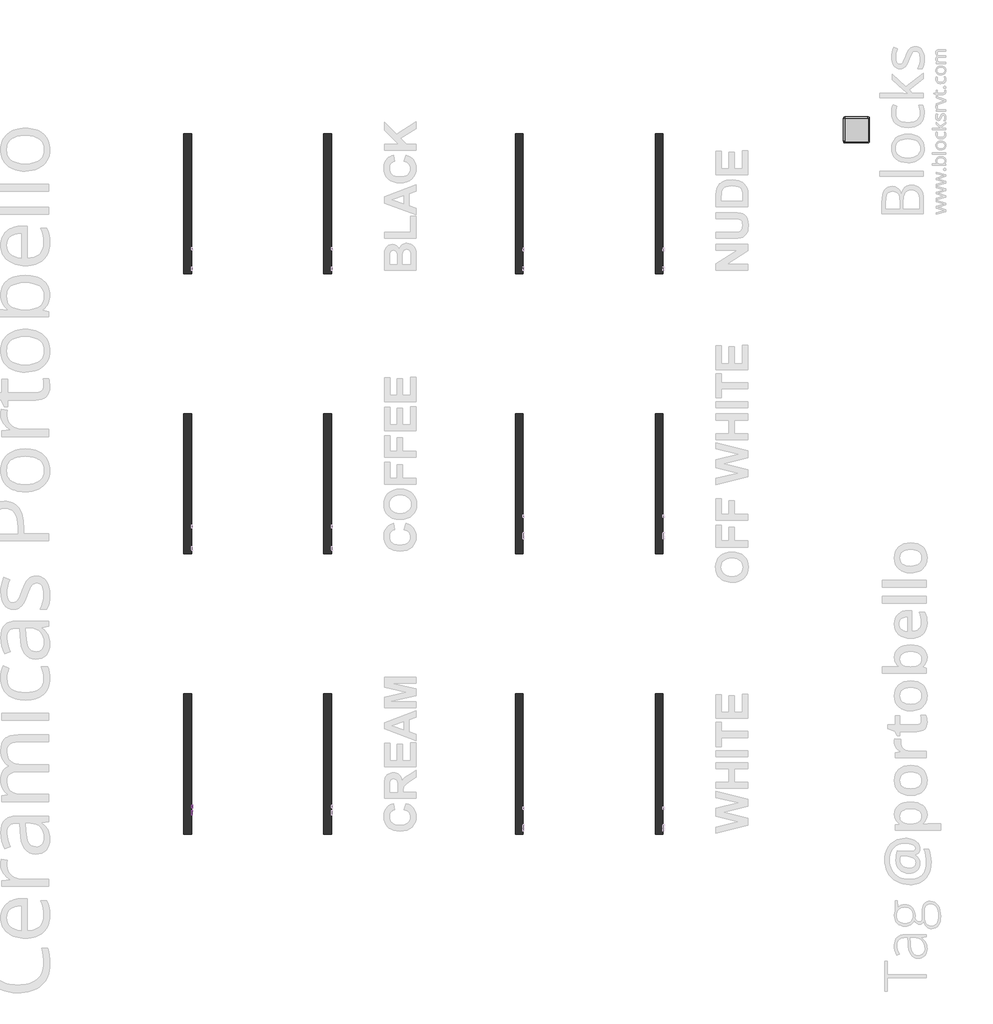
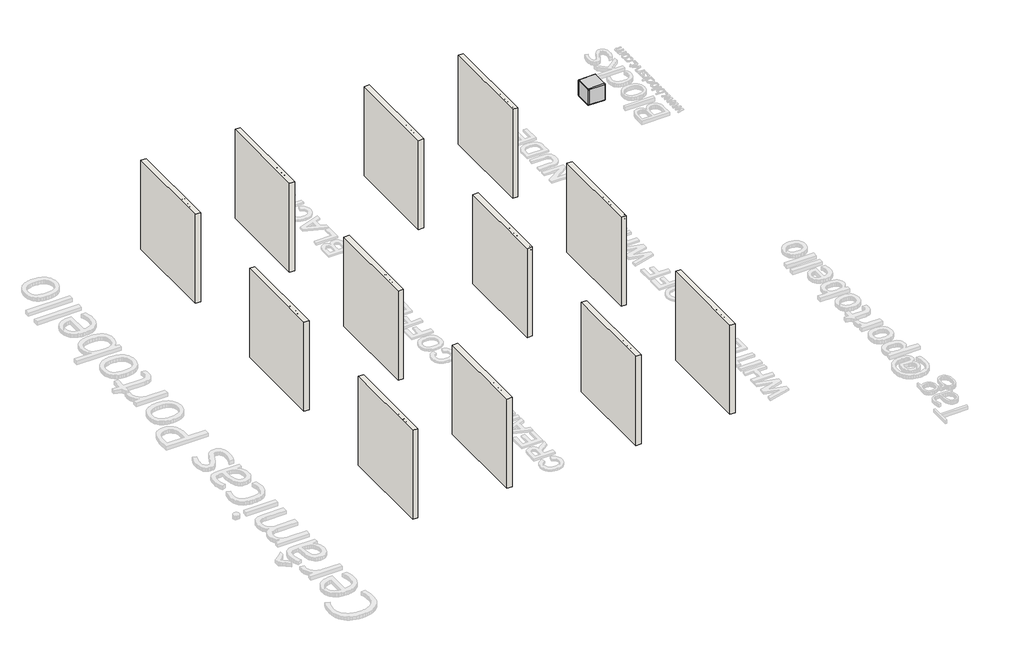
# One storey, part 1 of 8: 12 walls, 2 proxies, 1 furniture element.
"""IFC4 building model written with IfcOpenShell, lengths in millimetres."""

import ifcopenshell
import ifcopenshell.guid

model = None  # the IFC model being written
_history = None  # IfcOwnerHistory: only IFC2X3 demands one
_inside = {}  # id of a spatial element -> (the spatial element, [elements in it])
_under = {}  # id of a project, library or spatial element -> (it, [spatial elements below it])
_declared = {}  # id of a project -> (the project, [libraries it declares])
_typed = {}  # id of a type object -> (the type object, [elements of that type])
_made_of = {}  # id of a material, layer set ... -> (it, [elements and type objects made of it])


def new_model(schema):
    """Start an empty IFC model of exactly this schema.

    Asked for "IFC4X3", IfcOpenShell would pick the latest addendum, in which some entities
    have other attributes; the version numbers below select the first issue.
    IFC2X3 requires an IfcOwnerHistory on every rooted entity: one is made here for all.
    """
    global model, _history
    if schema == "IFC4X3":
        model = ifcopenshell.file(schema_version=(4, 3, 0, 0))
    else:
        model = ifcopenshell.file(schema=schema)
    _inside.clear()
    _under.clear()
    _declared.clear()
    _typed.clear()
    _made_of.clear()
    _history = None
    if model.schema == "IFC2X3":
        org = make("IfcOrganization", Name="unknown")
        user = make(
            "IfcPersonAndOrganization",
            ThePerson=make("IfcPerson", FamilyName="unknown"),
            TheOrganization=org,
        )
        app = make(
            "IfcApplication",
            ApplicationDeveloper=org,
            Version="unknown",
            ApplicationFullName="unknown",
            ApplicationIdentifier="unknown",
        )
        _history = make(
            "IfcOwnerHistory",
            OwningUser=user,
            OwningApplication=app,
            ChangeAction="ADDED",
            CreationDate=0,
        )
    return model


def make(cls, **values):
    """One entity of the class cls with the attributes given. An attribute that is None is left unset."""
    return model.create_entity(
        cls, **{name: value for name, value in values.items() if value is not None}
    )


def rooted(cls, **values):
    """An entity with a GlobalId (a new one), such as an element, a storey or a relation."""
    return make(cls, GlobalId=ifcopenshell.guid.new(), OwnerHistory=_history, **values)


def si_unit(unit_type, name, prefix=None):
    """IfcSIUnit, for example si_unit("LENGTHUNIT", "METRE", prefix="MILLI")."""
    return make("IfcSIUnit", UnitType=unit_type, Prefix=prefix, Name=name)


def assignment(units):
    """IfcUnitAssignment: the units of a project."""
    return None if units is None else make("IfcUnitAssignment", Units=units)


def point(xyz):
    """IfcCartesianPoint."""
    return None if xyz is None else make("IfcCartesianPoint", Coordinates=xyz)


def direction(xyz):
    """IfcDirection."""
    return None if xyz is None else make("IfcDirection", DirectionRatios=xyz)


def frame(location, z_axis=None, x_axis=None):
    """IfcAxis2Placement3D, a coordinate frame: its origin and axes. An axis left out is left unset."""
    return make(
        "IfcAxis2Placement3D",
        Location=point(location),
        Axis=direction(z_axis),
        RefDirection=direction(x_axis),
    )


def origin():
    """The frame at (0, 0, 0) with its axes left unset."""
    return frame((0.0, 0.0, 0.0))


def origin_with_axes():
    """The frame at (0, 0, 0) with the z axis (0, 0, 1) and the x axis (1, 0, 0) written out."""
    return frame((0.0, 0.0, 0.0), z_axis=(0.0, 0.0, 1.0), x_axis=(1.0, 0.0, 0.0))


def place(relative_to, where):
    """IfcLocalPlacement: puts the frame where relative to a parent placement (None: the world)."""
    return make(
        "IfcLocalPlacement", PlacementRelTo=relative_to, RelativePlacement=where
    )


def context(
    kind, dimensions, precision=None, world=None, true_north=None, identifier=None
):
    """IfcGeometricRepresentationContext, for example the 3D "Model" context."""
    return make(
        "IfcGeometricRepresentationContext",
        ContextIdentifier=identifier,
        ContextType=kind,
        CoordinateSpaceDimension=dimensions,
        Precision=precision,
        WorldCoordinateSystem=world,
        TrueNorth=true_north,
    )


def project(units=None, contexts=None):
    """IfcProject with its units and contexts."""
    return rooted(
        "IfcProject",
        Name="project",
        RepresentationContexts=contexts,
        UnitsInContext=assignment(units),
    )


def spatial(cls, under=None, at=None, **own):
    """A site, building, storey or space (cls), placed at a placement, below another one or the project."""
    s = rooted(cls, ObjectPlacement=at, **own)
    if under is not None:
        _under.setdefault(under.id(), (under, []))[1].append(s)
    return s


def polyline(points):
    """IfcPolyline through the points."""
    return make("IfcPolyline", Points=[point(p) for p in points])


def circle_curve(where, radius):
    """IfcCircle in the frame where."""
    return make("IfcCircle", Position=where, Radius=radius)


def ellipse_curve(where, semi_axis1, semi_axis2):
    """IfcEllipse in the frame where."""
    return make(
        "IfcEllipse", Position=where, SemiAxis1=semi_axis1, SemiAxis2=semi_axis2
    )


def trimmed(basis, trim1, trim2, sense, master):
    """IfcTrimmedCurve: the piece of a basis curve between two trims."""
    return make(
        "IfcTrimmedCurve",
        BasisCurve=basis,
        Trim1=trim1,
        Trim2=trim2,
        SenseAgreement=sense,
        MasterRepresentation=master,
    )


def outline(outer, holes=None, kind="AREA"):
    """IfcArbitraryClosedProfileDef: a profile drawn as a closed curve; with holes, ...WithVoids."""
    if holes is None:
        return make("IfcArbitraryClosedProfileDef", ProfileType=kind, OuterCurve=outer)
    return make(
        "IfcArbitraryProfileDefWithVoids",
        ProfileType=kind,
        OuterCurve=outer,
        InnerCurves=holes,
    )


def extrude(swept, where, along, depth):
    """IfcExtrudedAreaSolid: the profile swept, set in the frame where, extruded along a direction by depth."""
    return make(
        "IfcExtrudedAreaSolid",
        SweptArea=swept,
        Position=where,
        ExtrudedDirection=direction(along),
        Depth=depth,
    )


def shape(context_of_items, identifier, shape_type, items):
    """IfcShapeRepresentation: the items that make up one representation, for example the "Body"."""
    return make(
        "IfcShapeRepresentation",
        ContextOfItems=context_of_items,
        RepresentationIdentifier=identifier,
        RepresentationType=shape_type,
        Items=items,
    )


def source(mapping_origin, context_of_items, identifier, shape_type, items):
    """IfcRepresentationMap: a shape defined once, which mapped items show again and again."""
    return make(
        "IfcRepresentationMap",
        MappingOrigin=mapping_origin,
        MappedRepresentation=shape(context_of_items, identifier, shape_type, items),
    )


def transform(
    local_origin,
    x_axis=None,
    y_axis=None,
    z_axis=None,
    scale=None,
    scale2=None,
    scale3=None,
    uniform=True,
):
    """IfcCartesianTransformationOperator3D, or its non-uniform kind. x_axis, y_axis, z_axis: its Axis1, 2, 3."""
    if uniform:
        return make(
            "IfcCartesianTransformationOperator3D",
            Axis1=direction(x_axis),
            Axis2=direction(y_axis),
            LocalOrigin=point(local_origin),
            Scale=scale,
            Axis3=direction(z_axis),
        )
    return make(
        "IfcCartesianTransformationOperator3DnonUniform",
        Axis1=direction(x_axis),
        Axis2=direction(y_axis),
        LocalOrigin=point(local_origin),
        Scale=scale,
        Axis3=direction(z_axis),
        Scale2=scale2,
        Scale3=scale3,
    )


def mapped(mapping_source, mapping_target):
    """IfcMappedItem: shows the shape of a source again, moved by a transform."""
    return make(
        "IfcMappedItem", MappingSource=mapping_source, MappingTarget=mapping_target
    )


def made_of(thing, what):
    """Note that an element or type object is made of a material, layer set ...; save() writes the relation."""
    if what is not None:
        _made_of.setdefault(what.id(), (what, []))[1].append(thing)
    return thing


def element(
    cls,
    number,
    at=None,
    inside=None,
    cuts=None,
    type_object=None,
    material=None,
    context=None,
    identifier="Body",
    shape_type=None,
    held_by="IfcProductDefinitionShape",
    body=None,
    shapes=None,
    **own,
):
    """One element of the class cls, such as IfcWall. Its Tag is "e" and its number.

    at: its placement. inside: the storey or other place that contains it. cuts: it is an
    opening in that element (IfcRelVoidsElement). A single representation is given by context,
    identifier, shape_type and body (its items); several are given by shapes. held_by: the class
    of the entity that holds the representations. save() writes the other relations.
    """
    e = rooted(cls, Tag="e%d" % number, ObjectPlacement=at, **own)
    if body is not None:
        shapes = [shape(context, identifier, shape_type, body)]
    if shapes is not None:
        e.Representation = make(held_by, Representations=shapes)
    if inside is not None:
        _inside.setdefault(inside.id(), (inside, []))[1].append(e)
    if cuts is not None:
        rooted(
            "IfcRelVoidsElement", RelatingBuildingElement=cuts, RelatedOpeningElement=e
        )
    if type_object is not None:
        _typed.setdefault(type_object.id(), (type_object, []))[1].append(e)
    return made_of(e, material)


def aggregate(whole, parts):
    """IfcRelAggregates: a whole, such as a stair, and the parts it consists of."""
    return rooted("IfcRelAggregates", RelatingObject=whole, RelatedObjects=parts)


def save(model, path):
    """Write the relations noted so far, then the file.

    IfcRelAggregates (storeys below a building ...), IfcRelContainedInSpatialStructure (elements
    in a storey), IfcRelDefinesByType, IfcRelAssociatesMaterial and IfcRelDeclares: one each for
    every whole, place, type object, material and project.
    """
    for whole, parts in _under.values():
        aggregate(whole, parts)
    for where, things in _inside.values():
        rooted(
            "IfcRelContainedInSpatialStructure",
            RelatedElements=things,
            RelatingStructure=where,
        )
    for kind, things in _typed.values():
        rooted("IfcRelDefinesByType", RelatedObjects=things, RelatingType=kind)
    for what, things in _made_of.values():
        rooted("IfcRelAssociatesMaterial", RelatedObjects=things, RelatingMaterial=what)
    for by, libraries in _declared.values():
        rooted("IfcRelDeclares", RelatingContext=by, RelatedDefinitions=libraries)
    model.write(path)


def plane_surface(at):
    """IfcPlane: the flat surface through the origin of the frame at, square to its z axis."""
    return make("IfcPlane", Position=at)


def cylinder_surface(at, radius):
    """IfcCylindricalSurface: all points at the distance radius from the z axis of the frame at."""
    return make("IfcCylindricalSurface", Position=at, Radius=radius)


def revolved_surface(curve, axis_point, axis_direction):
    """IfcSurfaceOfRevolution: the curve turned about the line through axis_point along axis_direction."""
    return make(
        "IfcSurfaceOfRevolution",
        SweptCurve=make("IfcArbitraryOpenProfileDef", ProfileType="CURVE", Curve=curve),
        AxisPosition=make("IfcAxis1Placement", Location=point(axis_point), Axis=direction(axis_direction)),
    )


def advanced_brep(points, edges, surfaces, faces):
    """IfcAdvancedBrep: a solid bounded by faces that lie on surfaces and meet in shared edges.

    An edge is (start, end): straight between two places in points (the first is 0);
    or (start, end, curve); or (start, end, curve, False) where it runs against its curve.
    A face is (place in surfaces, loops), or (place, loops, False) where it looks against
    its surface's normal. A loop lists edges by number (the first is 1), with a minus sign
    where the edge is run from its end to its start. The first loop is the outer one.
    """
    corners = [point(p) for p in points]
    vertices = [make("IfcVertexPoint", VertexGeometry=c) for c in corners]
    made = []
    for start, end, *more in edges:
        made.append(
            make(
                "IfcEdgeCurve",
                EdgeStart=vertices[start],
                EdgeEnd=vertices[end],
                EdgeGeometry=more[0] if more else make("IfcPolyline", Points=[corners[start], corners[end]]),
                SameSense=more[1] if len(more) > 1 else True,
            )
        )
    hull = []
    for where, loops, *sense in faces:
        bounds = []
        for j, loop in enumerate(loops):
            ring = [make("IfcOrientedEdge", EdgeElement=made[abs(k) - 1], Orientation=k > 0) for k in loop]
            bounds.append(
                make(
                    "IfcFaceOuterBound" if j == 0 else "IfcFaceBound",
                    Bound=make("IfcEdgeLoop", EdgeList=ring),
                    Orientation=True,
                )
            )
        hull.append(make("IfcAdvancedFace", Bounds=bounds, FaceSurface=surfaces[where], SameSense=sense[0] if sense else True))
    return make("IfcAdvancedBrep", Outer=make("IfcClosedShell", CfsFaces=hull))


def branco_22256ad2(model_context):
    return source(origin(), model_context, "Body", "AdvancedBrep", [
        advanced_brep(
        [(-225.0, 226.0, 500.0), (-226.0, 225.0, 500.0), (-226.0, -225.0, 500.0), (-225.0, -226.0, 500.0), (225.0, -226.0, 500.0), (226.0, -225.0, 500.0), (226.0, 225.0, 500.0), (225.0, 226.0, 500.0), (-226.0, 225.0, 0.0), (-225.0, 226.0, 0.0), (225.0, 226.0, 0.0), (226.0, 225.0, 0.0), (226.0, -225.0, 0.0), (225.0, -226.0, 0.0), (-225.0, -226.0, 0.0), (-226.0, -225.0, 0.0), (-225.0, -250.0, 476.0), (-225.0, -250.0, 24.0), (225.0, -250.0, 24.0), (225.0, -250.0, 476.0), (250.0, -225.0, 476.0), (250.0, -225.0, 24.0), (250.0, 225.0, 24.0), (250.0, 225.0, 476.0), (225.0, 250.0, 476.0), (225.0, 250.0, 24.0), (-225.0, 250.0, 24.0), (-225.0, 250.0, 476.0), (-250.0, 225.0, 476.0), (-250.0, 225.0, 24.0), (-250.0, -225.0, 24.0), (-250.0, -225.0, 476.0)],
        [
            (0, 1, circle_curve(frame((-225.0, 225.0, 500.0), z_axis=(0.0, 0.0, 1.0), x_axis=(0.0, 1.0, 0.0)), 1.0)),
            (1, 2),
            (2, 3, circle_curve(frame((-225.0, -225.0, 500.0), z_axis=(0.0, 0.0, 1.0), x_axis=(-1.0, 0.0, 0.0)), 1.0)),
            (3, 4),
            (4, 5, circle_curve(frame((225.0, -225.0, 500.0), z_axis=(0.0, 0.0, 1.0), x_axis=(0.0, -1.0, 0.0)), 1.0)),
            (5, 6),
            (6, 7, circle_curve(frame((225.0, 225.0, 500.0), z_axis=(0.0, 0.0, 1.0), x_axis=(1.0, 0.0, 0.0)), 1.0)),
            (7, 0),
            (8, 9, circle_curve(frame((-225.0, 225.0, 0.0), z_axis=(0.0, 0.0, -1.0), x_axis=(0.0, 1.0, 0.0)), 1.0)),
            (9, 10),
            (10, 11, circle_curve(frame((225.0, 225.0, 0.0), z_axis=(0.0, 0.0, -1.0), x_axis=(1.0, 0.0, 0.0)), 1.0)),
            (11, 12),
            (12, 13, circle_curve(frame((225.0, -225.0, 0.0), z_axis=(0.0, 0.0, -1.0), x_axis=(0.0, -1.0, 0.0)), 1.0)),
            (13, 14),
            (14, 15, circle_curve(frame((-225.0, -225.0, 0.0), z_axis=(0.0, 0.0, -1.0), x_axis=(-1.0, 0.0, 0.0)), 1.0)),
            (15, 8),
            (16, 17),
            (17, 18),
            (18, 19),
            (19, 16),
            (20, 21),
            (21, 22),
            (22, 23),
            (23, 20),
            (24, 25),
            (25, 26),
            (26, 27),
            (27, 24),
            (28, 29),
            (29, 30),
            (30, 31),
            (31, 28),
            (16, 31, circle_curve(frame((-225.0, -225.0, 476.0), z_axis=(0.0, 0.0, -1.0), x_axis=(1.0, 0.0, 0.0)), 25.0)),
            (30, 17, circle_curve(frame((-225.0, -225.0, 24.0), z_axis=(0.0, 0.0, 1.0), x_axis=(1.0, 0.0, 0.0)), 25.0)),
            (20, 19, circle_curve(frame((225.0, -225.0, 476.0), z_axis=(0.0, 0.0, -1.0), x_axis=(1.0, 0.0, 0.0)), 25.0)),
            (18, 21, circle_curve(frame((225.0, -225.0, 24.0), z_axis=(0.0, 0.0, 1.0), x_axis=(1.0, 0.0, 0.0)), 25.0)),
            (24, 23, circle_curve(frame((225.0, 225.0, 476.0), z_axis=(0.0, 0.0, -1.0), x_axis=(1.0, 0.0, 0.0)), 25.0)),
            (22, 25, circle_curve(frame((225.0, 225.0, 24.0), z_axis=(0.0, 0.0, 1.0), x_axis=(1.0, 0.0, 0.0)), 25.0)),
            (28, 27, circle_curve(frame((-225.0, 225.0, 476.0), z_axis=(0.0, 0.0, -1.0), x_axis=(1.0, 0.0, 0.0)), 25.0)),
            (26, 29, circle_curve(frame((-225.0, 225.0, 24.0), z_axis=(0.0, 0.0, 1.0), x_axis=(1.0, 0.0, 0.0)), 25.0)),
            (28, 1, circle_curve(frame((-226.0, 225.0, 476.0), z_axis=(0.0, 1.0, 0.0), x_axis=(1.0, 0.0, 0.0)), 24.0)),
            (0, 27, circle_curve(frame((-225.0, 226.0, 476.0), z_axis=(-1.0, 0.0, 0.0), x_axis=(0.0, -1.0, 0.0)), 24.0)),
            (8, 29, circle_curve(frame((-226.0, 225.0, 24.0), z_axis=(0.0, 1.0, 0.0), x_axis=(1.0, 0.0, 0.0)), 24.0)),
            (26, 9, circle_curve(frame((-225.0, 226.0, 24.0), z_axis=(-1.0, 0.0, 0.0), x_axis=(0.0, -1.0, 0.0)), 24.0)),
            (31, 2, circle_curve(frame((-226.0, -225.0, 476.0), z_axis=(0.0, 1.0, 0.0), x_axis=(1.0, 0.0, 0.0)), 24.0)),
            (15, 30, circle_curve(frame((-226.0, -225.0, 24.0), z_axis=(0.0, 1.0, 0.0), x_axis=(1.0, 0.0, 0.0)), 24.0)),
            (16, 3, circle_curve(frame((-225.0, -226.0, 476.0), z_axis=(-1.0, 0.0, 0.0), x_axis=(0.0, 1.0, 0.0)), 24.0)),
            (14, 17, circle_curve(frame((-225.0, -226.0, 24.0), z_axis=(-1.0, 0.0, 0.0), x_axis=(0.0, 1.0, 0.0)), 24.0)),
            (19, 4, circle_curve(frame((225.0, -226.0, 476.0), z_axis=(-1.0, 0.0, 0.0), x_axis=(0.0, 1.0, 0.0)), 24.0)),
            (13, 18, circle_curve(frame((225.0, -226.0, 24.0), z_axis=(-1.0, 0.0, 0.0), x_axis=(0.0, 1.0, 0.0)), 24.0)),
            (20, 5, circle_curve(frame((226.0, -225.0, 476.0), z_axis=(0.0, -1.0, 0.0), x_axis=(-1.0, 0.0, 0.0)), 24.0)),
            (12, 21, circle_curve(frame((226.0, -225.0, 24.0), z_axis=(0.0, -1.0, 0.0), x_axis=(-1.0, 0.0, 0.0)), 24.0)),
            (23, 6, circle_curve(frame((226.0, 225.0, 476.0), z_axis=(0.0, -1.0, 0.0), x_axis=(-1.0, 0.0, 0.0)), 24.0)),
            (11, 22, circle_curve(frame((226.0, 225.0, 24.0), z_axis=(0.0, -1.0, 0.0), x_axis=(-1.0, 0.0, 0.0)), 24.0)),
            (24, 7, circle_curve(frame((225.0, 226.0, 476.0), z_axis=(1.0, 0.0, 0.0), x_axis=(0.0, -1.0, 0.0)), 24.0)),
            (10, 25, circle_curve(frame((225.0, 226.0, 24.0), z_axis=(1.0, 0.0, 0.0), x_axis=(0.0, -1.0, 0.0)), 24.0)),
        ],
        [
            plane_surface(frame((-200.0, -225.0, 500.0), z_axis=(0.0, 0.0, 1.0), x_axis=(0.0, 1.0, 0.0))),
            plane_surface(frame((-200.0, -225.0, 0.0), z_axis=(0.0, 0.0, -1.0), x_axis=(0.0, -1.0, 0.0))),
            plane_surface(frame((-225.0, -250.0, 500.0), z_axis=(0.0, -1.0, 0.0), x_axis=(0.0, 0.0, -1.0))),
            plane_surface(frame((250.0, -225.0, 500.0), z_axis=(1.0, 0.0, 0.0), x_axis=(0.0, 0.0, -1.0))),
            plane_surface(frame((225.0, 250.0, 500.0), z_axis=(0.0, 1.0, 0.0), x_axis=(0.0, 0.0, -1.0))),
            plane_surface(frame((-250.0, 225.0, 500.0), z_axis=(-1.0, 0.0, 0.0), x_axis=(0.0, 0.0, -1.0))),
            cylinder_surface(frame((-225.0, -225.0, 0.0), z_axis=(0.0, 0.0, 1.0), x_axis=(1.0, 0.0, 0.0)), 25.0),
            cylinder_surface(frame((225.0, -225.0, 0.0), z_axis=(0.0, 0.0, 1.0), x_axis=(1.0, 0.0, 0.0)), 25.0),
            cylinder_surface(frame((225.0, 225.0, 0.0), z_axis=(0.0, 0.0, 1.0), x_axis=(1.0, 0.0, 0.0)), 25.0),
            cylinder_surface(frame((-225.0, 225.0, 0.0), z_axis=(0.0, 0.0, 1.0), x_axis=(1.0, 0.0, 0.0)), 25.0),
            revolved_surface(trimmed(ellipse_curve(frame((-225.0, 226.0, 476.0), z_axis=(1.0, 0.0, 0.0), x_axis=(0.0, -1.0, 0.0)), 24.0, 24.0), [point((-225.0, 250.0, 476.0))], [point((-225.0, 226.0, 500.0))], True, "CARTESIAN"), (-225.0, 225.0, 500.0), (0.0, 0.0, 1.0)),
            revolved_surface(trimmed(ellipse_curve(frame((-225.0, 226.0, 24.0), z_axis=(1.0, 0.0, 0.0), x_axis=(0.0, -1.0, 0.0)), 24.0, 24.0), [point((-225.0, 226.0, 0.0))], [point((-225.0, 250.0, 24.0))], True, "CARTESIAN"), (-225.0, 225.0, 500.0), (0.0, 0.0, 1.0)),
            cylinder_surface(frame((-226.0, 225.0, 476.0), z_axis=(0.0, -1.0, 0.0), x_axis=(1.0, 0.0, 0.0)), 24.0),
            cylinder_surface(frame((-226.0, 225.0, 24.0), z_axis=(0.0, -1.0, 0.0), x_axis=(1.0, 0.0, 0.0)), 24.0),
            revolved_surface(trimmed(ellipse_curve(frame((-226.0, -225.0, 476.0), z_axis=(0.0, 1.0, 0.0), x_axis=(1.0, 0.0, 0.0)), 24.0, 24.0), [point((-250.0, -225.0, 476.0))], [point((-226.0, -225.0, 500.0))], True, "CARTESIAN"), (-225.0, -225.0, 500.0), (0.0, 0.0, 1.0)),
            revolved_surface(trimmed(ellipse_curve(frame((-226.0, -225.0, 24.0), z_axis=(0.0, 1.0, 0.0), x_axis=(1.0, 0.0, 0.0)), 24.0, 24.0), [point((-226.0, -225.0, 0.0))], [point((-250.0, -225.0, 24.0))], True, "CARTESIAN"), (-225.0, -225.0, 500.0), (0.0, 0.0, 1.0)),
            cylinder_surface(frame((-225.0, -226.0, 476.0), z_axis=(1.0, 0.0, 0.0), x_axis=(0.0, 1.0, 0.0)), 24.0),
            cylinder_surface(frame((-225.0, -226.0, 24.0), z_axis=(1.0, 0.0, 0.0), x_axis=(0.0, 1.0, 0.0)), 24.0),
            revolved_surface(trimmed(ellipse_curve(frame((225.0, -226.0, 476.0), z_axis=(-1.0, 0.0, 0.0), x_axis=(0.0, 1.0, 0.0)), 24.0, 24.0), [point((225.0, -250.0, 476.0))], [point((225.0, -226.0, 500.0))], True, "CARTESIAN"), (225.0, -225.0, 500.0), (0.0, 0.0, 1.0)),
            revolved_surface(trimmed(ellipse_curve(frame((225.0, -226.0, 24.0), z_axis=(-1.0, 0.0, 0.0), x_axis=(0.0, 1.0, 0.0)), 24.0, 24.0), [point((225.0, -226.0, 0.0))], [point((225.0, -250.0, 24.0))], True, "CARTESIAN"), (225.0, -225.0, 500.0), (0.0, 0.0, 1.0)),
            cylinder_surface(frame((226.0, -225.0, 476.0), z_axis=(0.0, 1.0, 0.0), x_axis=(-1.0, 0.0, 0.0)), 24.0),
            cylinder_surface(frame((226.0, -225.0, 24.0), z_axis=(0.0, 1.0, 0.0), x_axis=(-1.0, 0.0, 0.0)), 24.0),
            revolved_surface(trimmed(ellipse_curve(frame((226.0, 225.0, 476.0), z_axis=(0.0, -1.0, 0.0), x_axis=(-1.0, 0.0, 0.0)), 24.0, 24.0), [point((250.0, 225.0, 476.0))], [point((226.0, 225.0, 500.0))], True, "CARTESIAN"), (225.0, 225.0, 500.0), (0.0, 0.0, 1.0)),
            revolved_surface(trimmed(ellipse_curve(frame((226.0, 225.0, 24.0), z_axis=(0.0, -1.0, 0.0), x_axis=(-1.0, 0.0, 0.0)), 24.0, 24.0), [point((226.0, 225.0, 0.0))], [point((250.0, 225.0, 24.0))], True, "CARTESIAN"), (225.0, 225.0, 500.0), (0.0, 0.0, 1.0)),
            cylinder_surface(frame((225.0, 226.0, 476.0), z_axis=(-1.0, 0.0, 0.0), x_axis=(0.0, -1.0, 0.0)), 24.0),
            cylinder_surface(frame((225.0, 226.0, 24.0), z_axis=(-1.0, 0.0, 0.0), x_axis=(0.0, -1.0, 0.0)), 24.0),
        ],
        [
            (0, [[1, 2, 3, 4, 5, 6, 7, 8]]),
            (1, [[9, 10, 11, 12, 13, 14, 15, 16]]),
            (2, [[17, 18, 19, 20]]),
            (3, [[21, 22, 23, 24]]),
            (4, [[25, 26, 27, 28]]),
            (5, [[29, 30, 31, 32]]),
            (6, [[-17, 33, -31, 34]]),
            (7, [[-21, 35, -19, 36]]),
            (8, [[-25, 37, -23, 38]]),
            (9, [[-29, 39, -27, 40]]),
            (10, [[41, -1, 42, -39]]),
            (11, [[43, -40, 44, -9]]),
            (12, [[-41, -32, 45, -2]]),
            (13, [[-43, -16, 46, -30]]),
            (14, [[-45, -33, 47, -3]]),
            (15, [[-46, -15, 48, -34]]),
            (16, [[-47, -20, 49, -4]]),
            (17, [[-48, -14, 50, -18]]),
            (18, [[-49, -35, 51, -5]]),
            (19, [[-50, -13, 52, -36]]),
            (20, [[-51, -24, 53, -6]]),
            (21, [[-52, -12, 54, -22]]),
            (22, [[-53, -37, 55, -7]]),
            (23, [[-54, -11, 56, -38]]),
            (24, [[-42, -8, -55, -28]]),
            (25, [[-44, -26, -56, -10]]),
        ],
    ),
    ])


model = new_model("IFC4")

# Units and contexts
model_context = context("Model", 3, world=origin())
ifc_project = project(units=[si_unit("LENGTHUNIT", "METRE", prefix="MILLI")], contexts=[model_context])

# Site, building, storey
site = spatial("IfcSite", under=ifc_project)
building = spatial("IfcBuilding", under=site)
storey = spatial("IfcBuildingStorey", under=building, Name="PORTOBELLO - SHOWROOM", Elevation=0.0)

# Proxies
placement = place(None, origin())
element("IfcBuildingElementProxy", 1, Name="10mm Arial", ObjectType="10mm Arial", at=placement, inside=storey, context=model_context, shape_type="SweptSolid", body=[
    extrude(outline(polyline([(-9094.2781927, 2584.5399034), (-9081.721154, 2581.3025418), (-9087.5152954, 2566.6700355), (-9096.608112, 2555.9799978), (-9108.5520141, 2549.4408954), (-9122.899412, 2547.2611945), (-9137.4644733, 2548.9105322), (-9149.0312964, 2553.858545), (-9157.8972524, 2561.9335548), (-9164.3597128, 2572.9638833), (-9169.6204253, 2599.8192689), (-9168.133569, 2614.4671037), (-9163.6729998, 2627.116113), (-9156.4717097, 2637.3646922), (-9146.7626907, 2644.8112369), (-9135.2479843, 2649.3453825), (-9122.6296318, 2650.8567644), (-9108.8616482, 2648.9008584), (-9097.4787661, 2643.0331406), (-9088.8366049, 2633.6153615), (-9083.2907838, 2621.0092718), (-9095.8478226, 2618.0171649), (-9106.1485184, 2633.455946), (-9123.1201412, 2638.2997256), (-9142.7650397, 2632.9286485), (-9153.8628132, 2618.5076743), (-9157.0633866, 2599.8437944), (-9153.274202, 2578.2123331), (-9141.4774527, 2564.3922328), (-9124.1502107, 2559.8182333), (-9113.6686396, 2561.3756004), (-9104.9345079, 2566.0477018), (-9098.3402231, 2573.7854864), (-9094.2781927, 2584.5399034)])), frame((14314.625413, 0.0, 0.0), z_axis=(1.0, 0.0, 0.0), x_axis=(0.0, 1.0, 0.0)), (0.0, 0.0, 1.0), 20.0),
    extrude(outline(polyline([(-9066.0248555, 2548.8308244), (-9066.0248555, 2622.6034272), (-9055.0374466, 2622.6034272), (-9055.0374466, 2611.6895946), (-9047.2383483, 2621.7450358), (-9039.3901991, 2624.173057), (-9026.7841094, 2620.2980333), (-9030.9779641, 2609.0408443), (-9039.807132, 2611.6160182), (-9046.9072545, 2609.1389461), (-9051.432203, 2602.2718156), (-9053.4678167, 2587.6055867), (-9053.4678167, 2548.8308244), (-9066.0248555, 2548.8308244)])), frame((14314.625413, 0.0, 0.0), z_axis=(1.0, 0.0, 0.0), x_axis=(0.0, 1.0, 0.0)), (0.0, 0.0, 1.0), 20.0),
    extrude(outline(polyline([(-8967.285328, 2570.8056422), (-8954.9735439, 2569.2360124), (-8959.4095876, 2559.9592547), (-8966.4882503, 2553.0246791), (-8976.0501165, 2548.7020657), (-8987.9357707, 2547.2611945), (-9002.6694446, 2549.7474637), (-9014.0063414, 2557.2062711), (-9021.2352226, 2569.1532389), (-9023.6448497, 2585.1039891), (-9021.2106971, 2601.5912339), (-9013.9082395, 2613.9214121), (-9002.7246269, 2621.6101458), (-8988.6470092, 2624.173057), (-8975.0077842, 2621.6162771), (-8964.1092801, 2613.9459375), (-8956.9631724, 2601.6402848), (-8954.5811364, 2585.1775655), (-8954.6547128, 2581.7930512), (-9011.0878109, 2581.7930512), (-9008.9142414, 2572.3936662), (-9003.8650611, 2565.483616), (-8996.5779319, 2561.234579), (-8987.690516, 2559.8182333), (-8975.3787319, 2562.4424582), (-8967.285328, 2570.8056422)]), holes=[polyline([(-9011.0878109, 2594.3500899), (-8967.1381752, 2594.3500899), (-8972.1658958, 2605.7299063), (-8979.4867475, 2610.1444902), (-8988.6960601, 2611.6160182), (-9004.1593667, 2606.9193914), (-9009.024606, 2601.4287526), (-9011.0878109, 2594.3500899)])]), frame((14314.625413, 0.0, 0.0), z_axis=(1.0, 0.0, 0.0), x_axis=(0.0, 1.0, 0.0)), (0.0, 0.0, 1.0), 20.0),
    extrude(outline(polyline([(-8894.9352023, 2558.2486035), (-8907.1120963, 2549.7382666), (-8920.5643146, 2547.2611945), (-8931.0581485, 2548.7511166), (-8938.7989988, 2553.2208829), (-8943.5722677, 2560.0083057), (-8945.1633574, 2568.4511975), (-8942.7598617, 2578.3840113), (-8936.4445541, 2585.5944984), (-8927.6521744, 2589.7147768), (-8916.7873928, 2591.6032377), (-8895.0087787, 2595.9197198), (-8894.9352023, 2598.7156229), (-8898.393293, 2607.9862492), (-8912.274707, 2611.6160182), (-8924.9788986, 2609.2002598), (-8931.0366887, 2600.6286093), (-8943.5937275, 2602.1982392), (-8938.1613367, 2614.4609723), (-8927.2229787, 2621.646934), (-8910.6560262, 2624.173057), (-8895.4379743, 2621.9412396), (-8886.8417984, 2616.3371705), (-8882.9913002, 2607.8145709), (-8882.3781635, 2596.827162), (-8882.3781635, 2581.20444), (-8881.7405014, 2559.3890376), (-8879.2389038, 2548.8308244), (-8891.7959426, 2548.8308244), (-8894.9352023, 2558.2486035)]), holes=[polyline([(-8894.9352023, 2583.362681), (-8915.1932375, 2579.5121828), (-8925.9967054, 2577.4765691), (-8930.8895359, 2574.1656311), (-8932.6063186, 2569.3341142), (-8928.866185, 2562.5405601), (-8917.8910388, 2559.8182333), (-8905.1868472, 2562.8226029), (-8896.9953415, 2570.0944037), (-8895.0087787, 2579.8064884), (-8894.9352023, 2583.362681)])]), frame((14314.625413, 0.0, 0.0), z_axis=(1.0, 0.0, 0.0), x_axis=(0.0, 1.0, 0.0)), (0.0, 0.0, 1.0), 20.0),
    extrude(outline(polyline([(-8865.1122352, 2548.8308244), (-8865.1122352, 2622.6034272), (-8852.5551964, 2622.6034272), (-8852.5551964, 2610.4633213), (-8843.9222323, 2620.4083979), (-8831.6349736, 2624.173057), (-8819.0534094, 2620.3348215), (-8812.1372279, 2609.5804045), (-8802.3393041, 2620.5248939), (-8789.9662063, 2624.173057), (-8780.5269675, 2622.6555438), (-8773.5464066, 2618.1030041), (-8769.2329902, 2610.3928106), (-8767.7951847, 2599.402336), (-8767.7951847, 2548.8308244), (-8780.3522235, 2548.8308244), (-8780.3522235, 2594.0067334), (-8781.5171832, 2604.4913703), (-8785.7355634, 2609.6539809), (-8792.9092623, 2611.6160182), (-8805.2578346, 2606.5882976), (-8808.9458516, 2600.0461295), (-8810.1751906, 2590.4750662), (-8810.1751906, 2548.8308244), (-8822.7322294, 2548.8308244), (-8822.7322294, 2595.404685), (-8825.6384971, 2607.5693163), (-8835.1666408, 2611.6160182), (-8844.4617925, 2608.9182169), (-8850.6422101, 2601.0210168), (-8852.5551964, 2586.0359568), (-8852.5551964, 2548.8308244), (-8865.1122352, 2548.8308244)])), frame((14314.625413, 0.0, 0.0), z_axis=(1.0, 0.0, 0.0), x_axis=(0.0, 1.0, 0.0)), (0.0, 0.0, 1.0), 20.0),
])
element("IfcBuildingElementProxy", 2, Name="10mm Arial Narrow", ObjectType="10mm Arial Narrow", at=placement, inside=storey, context=model_context, shape_type="SweptSolid", body=[
    extrude(outline(polyline([(-8730.3882863, 2548.8308244), (-8730.3882863, 2649.5494281), (-8699.0914016, 2649.5494281), (-8682.7957001, 2647.6711074), (-8671.322714, 2638.1906642), (-8667.0330356, 2621.1715554), (-8668.819344, 2609.0957299), (-8674.1782692, 2599.4693361), (-8683.922058, 2593.1680777), (-8698.8629572, 2591.0676582), (-8720.6413247, 2591.0676582), (-8720.6413247, 2548.8308244), (-8730.3882863, 2548.8308244)]), holes=[polyline([(-8720.6413247, 2602.4391135), (-8697.6699697, 2602.4391135), (-8681.8057743, 2606.9699277), (-8676.7799972, 2620.6385184), (-8679.2548117, 2630.8042949), (-8685.2324405, 2636.6042447), (-8697.8984142, 2638.1779729), (-8720.6413247, 2638.1779729), (-8720.6413247, 2602.4391135)])]), frame((14314.625413, 0.0, 0.0), z_axis=(1.0, 0.0, 0.0), x_axis=(0.0, 1.0, 0.0)), (0.0, 0.0, 1.0), 20.0),
    extrude(outline(polyline([(-8658.9105675, 2585.3819306), (-8656.9560987, 2601.9727061), (-8651.092692, 2613.9247909), (-8642.2341253, 2621.1493455), (-8631.2941762, 2623.5575304), (-8620.4811406, 2621.1493455), (-8611.5971912, 2613.9247909), (-8605.6576364, 2602.1630765), (-8603.6777848, 2586.143412), (-8605.6227352, 2568.9815254), (-8611.4575863, 2556.8390702), (-8620.3066345, 2549.6145156), (-8631.2941762, 2547.2063308), (-8642.1548044, 2549.6208613), (-8651.0292353, 2556.8644529), (-8656.9402345, 2568.8228834), (-8658.9105675, 2585.3819306)]), holes=[polyline([(-8649.1636059, 2585.4073133), (-8647.859569, 2572.8555619), (-8643.9474584, 2563.9843038), (-8638.1062617, 2558.7110453), (-8631.0149663, 2556.9532924), (-8624.2948932, 2558.7269095), (-8618.6028199, 2564.0477606), (-8614.7192648, 2572.9348829), (-8613.4247465, 2585.4073133), (-8614.7287834, 2597.9209906), (-8618.6408939, 2606.7795573), (-8624.4820907, 2612.0528159), (-8631.573386, 2613.8105687), (-8638.3410518, 2612.0432974), (-8644.0236066, 2606.7414833), (-8647.8786061, 2597.873398), (-8649.1636059, 2585.4073133)])]), frame((14314.625413, 0.0, 0.0), z_axis=(1.0, 0.0, 0.0), x_axis=(0.0, 1.0, 0.0)), (0.0, 0.0, 1.0), 20.0),
    extrude(outline(polyline([(-8532.200066, 2556.9532924), (-8530.5755724, 2547.2063308), (-8537.9365591, 2547.2063308), (-8546.2113234, 2549.3257873), (-8550.5263846, 2555.1257371), (-8551.6939893, 2569.7715623), (-8551.6939893, 2612.1860751), (-8559.8164574, 2612.1860751), (-8559.8164574, 2615.4350624), (-8561.440951, 2610.5615815), (-8569.0049994, 2612.1860751), (-8575.084159, 2609.8635569), (-8578.9550227, 2603.3782738), (-8580.9348743, 2587.9709673), (-8580.9348743, 2548.8308244), (-8590.681836, 2548.8308244), (-8590.681836, 2621.9330368), (-8580.9348743, 2621.9330368), (-8580.9348743, 2612.2368406), (-8574.690727, 2621.3238517), (-8568.2942834, 2623.5575304), (-8559.8164574, 2621.9330368), (-8551.6939893, 2621.9330368), (-8551.6939893, 2638.1779729), (-8541.9470277, 2646.3004409), (-8541.9470277, 2621.9330368), (-8532.200066, 2621.9330368), (-8532.200066, 2612.1860751), (-8541.9470277, 2612.1860751), (-8541.9470277, 2567.5378836), (-8541.0840155, 2559.5423291), (-8536.4643618, 2556.9532924), (-8532.200066, 2556.9532924)])), frame((14314.625413, 0.0, 0.0), z_axis=(1.0, 0.0, 0.0), x_axis=(0.0, 1.0, 0.0)), (0.0, 0.0, 1.0), 20.0),
    extrude(outline(polyline([(-8525.7020916, 2585.3819306), (-8523.7476227, 2601.9727061), (-8517.8842161, 2613.9247909), (-8509.0256494, 2621.1493455), (-8498.0857003, 2623.5575304), (-8487.2726647, 2621.1493455), (-8478.3887152, 2613.9247909), (-8472.4491605, 2602.1630765), (-8470.4693089, 2586.143412), (-8472.4142593, 2568.9815254), (-8478.2491103, 2556.8390702), (-8487.0981585, 2549.6145156), (-8498.0857003, 2547.2063308), (-8508.9463284, 2549.6208613), (-8517.8207593, 2556.8644529), (-8523.7317585, 2568.8228834), (-8525.7020916, 2585.3819306)]), holes=[polyline([(-8515.95513, 2585.4073133), (-8514.6510931, 2572.8555619), (-8510.7389825, 2563.9843038), (-8504.8977858, 2558.7110453), (-8497.8064904, 2556.9532924), (-8491.0864172, 2558.7269095), (-8485.3943439, 2564.0477606), (-8481.5107889, 2572.9348829), (-8480.2162706, 2585.4073133), (-8481.5203074, 2597.9209906), (-8485.432418, 2606.7795573), (-8491.2736148, 2612.0528159), (-8498.3649101, 2613.8105687), (-8505.1325759, 2612.0432974), (-8510.8151306, 2606.7414833), (-8514.6701301, 2597.873398), (-8515.95513, 2585.4073133)])]), frame((14314.625413, 0.0, 0.0), z_axis=(1.0, 0.0, 0.0), x_axis=(0.0, 1.0, 0.0)), (0.0, 0.0, 1.0), 20.0),
    extrude(outline(polyline([(-8447.7263984, 2548.8308244), (-8457.47336, 2548.8308244), (-8457.47336, 2649.5494281), (-8447.7263984, 2649.5494281), (-8447.7263984, 2614.140544), (-8440.3273376, 2621.2223208), (-8431.1261043, 2623.5575304), (-8418.2443776, 2619.3566915), (-8408.9669962, 2606.6272611), (-8405.4895645, 2585.9403503), (-8407.4218235, 2569.4860068), (-8413.2186005, 2557.2832677), (-8421.5917229, 2549.725565), (-8431.2530179, 2547.2063308), (-8440.5938561, 2549.8207502), (-8447.7263984, 2557.5878602), (-8447.7263984, 2548.8308244)]), holes=[polyline([(-8447.7263984, 2585.9403503), (-8445.6450159, 2568.692797), (-8439.7562266, 2559.9611439), (-8431.3037833, 2556.9532924), (-8425.3610557, 2558.7427737), (-8420.1226984, 2564.1112174), (-8415.2365262, 2585.5342269), (-8419.9450194, 2606.9699277), (-8425.1897224, 2612.1004085), (-8431.506845, 2613.8105687), (-8437.4844738, 2612.0210875), (-8442.7767694, 2606.6526438), (-8447.7263984, 2585.9403503)])]), frame((14314.625413, 0.0, 0.0), z_axis=(1.0, 0.0, 0.0), x_axis=(0.0, 1.0, 0.0)), (0.0, 0.0, 1.0), 20.0),
    extrude(outline(polyline([(-8353.5057691, 2571.5737349), (-8343.7588074, 2569.9492413), (-8347.4583378, 2560.0626747), (-8353.2773246, 2552.9428238), (-8360.9809779, 2548.640454), (-8370.3345075, 2547.2063308), (-8381.9280615, 2549.6208613), (-8391.0721838, 2556.8644529), (-8397.0117385, 2568.6705872), (-8398.9915901, 2584.7727455), (-8397.00222, 2601.4396692), (-8391.0341097, 2613.6201984), (-8382.0200739, 2621.0731974), (-8370.8929272, 2623.5575304), (-8360.209978, 2621.1588641), (-8351.4624607, 2613.962865), (-8345.6276096, 2602.2233604), (-8343.6826593, 2586.1941774), (-8343.7588074, 2582.9451902), (-8389.2446285, 2582.9451902), (-8383.2416169, 2563.5020323), (-8377.3115807, 2558.5904774), (-8370.207594, 2556.9532924), (-8360.0291262, 2560.608403), (-8353.5057691, 2571.5737349)]), holes=[polyline([(-8388.5846779, 2592.6921518), (-8353.5057691, 2592.6921518), (-8357.7700648, 2606.9572363), (-8363.5953973, 2612.0972356), (-8370.8167791, 2613.8105687), (-8383.0258639, 2608.0994584), (-8388.5846779, 2592.6921518)])]), frame((14314.625413, 0.0, 0.0), z_axis=(1.0, 0.0, 0.0), x_axis=(0.0, 1.0, 0.0)), (0.0, 0.0, 1.0), 20.0),
    extrude(outline(polyline([(14334.625413, -8321.0158969), (14334.625413, -8330.7628585), (14314.625413, -8330.7628585), (14314.625413, -8321.0158969), (14334.625413, -8321.0158969)])), frame((0.0, 0.0, 2548.8308244), z_axis=(0.0, 0.0, 1.0), x_axis=(1.0, 0.0, 0.0)), (0.0, 0.0, 1.0), 100.7186038),
    extrude(outline(polyline([(14334.625413, -8295.0239991), (14334.625413, -8304.7709608), (14314.625413, -8304.7709608), (14314.625413, -8295.0239991), (14334.625413, -8295.0239991)])), frame((0.0, 0.0, 2548.8308244), z_axis=(0.0, 0.0, 1.0), x_axis=(1.0, 0.0, 0.0)), (0.0, 0.0, 1.0), 100.7186038),
    extrude(outline(polyline([(-8283.6525439, 2585.3819306), (-8281.698075, 2601.9727061), (-8275.8346684, 2613.9247909), (-8266.9761017, 2621.1493455), (-8256.0361525, 2623.5575304), (-8245.2231169, 2621.1493455), (-8236.3391675, 2613.9247909), (-8230.3996128, 2602.1630765), (-8228.4197612, 2586.143412), (-8230.3647115, 2568.9815254), (-8236.1995626, 2556.8390702), (-8245.0486108, 2549.6145156), (-8256.0361525, 2547.2063308), (-8266.8967807, 2549.6208613), (-8275.7712116, 2556.8644529), (-8281.6822108, 2568.8228834), (-8283.6525439, 2585.3819306)]), holes=[polyline([(-8273.9055822, 2585.4073133), (-8272.6015454, 2572.8555619), (-8268.6894348, 2563.9843038), (-8262.848238, 2558.7110453), (-8255.7569427, 2556.9532924), (-8249.0368695, 2558.7269095), (-8243.3447962, 2564.0477606), (-8239.4612412, 2572.9348829), (-8238.1667228, 2585.4073133), (-8239.4707597, 2597.9209906), (-8243.3828703, 2606.7795573), (-8249.224067, 2612.0528159), (-8256.3153624, 2613.8105687), (-8263.0830281, 2612.0432974), (-8268.7655829, 2606.7414833), (-8272.6205824, 2597.873398), (-8273.9055822, 2585.4073133)])]), frame((14314.625413, 0.0, 0.0), z_axis=(1.0, 0.0, 0.0), x_axis=(0.0, 1.0, 0.0)), (0.0, 0.0, 1.0), 20.0),
])

# Furniture
branco_shape = branco_22256ad2(model_context)
element("IfcFurniture", 3, ObjectType="Blks_Mob_Blocks Revit_Cubo : Branco", at=placement, inside=storey, context=model_context, shape_type="MappedRepresentation", body=[
    mapped(branco_shape, transform((27142.0478563, 4352.0376569, 0.0), x_axis=(1.0, 0.0, 0.0), y_axis=(0.0, 1.0, 0.0), z_axis=(0.0, 0.0, 1.0))),
])

# Walls
element("IfcWall", 4, ObjectType="PORTOBELLO - BLOCKS - BLACK - 30X30 - TEL - 2,3x2,3", at=placement, inside=storey, context=model_context, shape_type="SweptSolid", body=[
    extrude(outline(polyline([(16864.625413, 1573.8400874), (16864.625413, 4273.8400874), (17014.625413, 4273.8400874), (17014.625413, 1573.8400874), (16864.625413, 1573.8400874)])), origin_with_axes(), (0.0, 0.0, 1.0), 2700.0),
])
element("IfcWall", 5, ObjectType="PORTOBELLO - BLOCKS - BLACK - 30X30 - TEL - 2,3x7,3", at=placement, inside=storey, context=model_context, shape_type="SweptSolid", body=[
    extrude(outline(polyline([(14164.625413, 1573.8400874), (14164.625413, 4273.8400874), (14314.625413, 4273.8400874), (14314.625413, 1573.8400874), (14164.625413, 1573.8400874)])), origin_with_axes(), (0.0, 0.0, 1.0), 2700.0),
])
element("IfcWall", 6, ObjectType="PORTOBELLO - BLOCKS - COFFEE - 30X30 - TEL - 2,3x2,3", at=placement, inside=storey, context=model_context, shape_type="SweptSolid", body=[
    extrude(outline(polyline([(16864.625413, -3826.1599126), (16864.625413, -1126.1599126), (17014.625413, -1126.1599126), (17014.625413, -3826.1599126), (16864.625413, -3826.1599126)])), origin_with_axes(), (0.0, 0.0, 1.0), 2700.0),
])
element("IfcWall", 7, ObjectType="PORTOBELLO - BLOCKS - COFFEE - 30X30 - TEL - 2,3x7,3", at=placement, inside=storey, context=model_context, shape_type="SweptSolid", body=[
    extrude(outline(polyline([(14164.625413, -3826.1599126), (14164.625413, -1126.1599126), (14314.625413, -1126.1599126), (14314.625413, -3826.1599126), (14164.625413, -3826.1599126)])), origin_with_axes(), (0.0, 0.0, 1.0), 2700.0),
])
element("IfcWall", 8, ObjectType="PORTOBELLO - BLOCKS - CREAM - 30X30 - TEL - 2,3x2,3", at=placement, inside=storey, context=model_context, shape_type="SweptSolid", body=[
    extrude(outline(polyline([(16864.625413, -9226.1599126), (16864.625413, -6526.1599126), (17014.625413, -6526.1599126), (17014.625413, -9226.1599126), (16864.625413, -9226.1599126)])), origin_with_axes(), (0.0, 0.0, 1.0), 2700.0),
])
element("IfcWall", 9, ObjectType="PORTOBELLO - BLOCKS - CREAM - 30X30 - TEL - 2,3x7,3", at=placement, inside=storey, context=model_context, shape_type="SweptSolid", body=[
    extrude(outline(polyline([(14164.625413, -9226.1599126), (14164.625413, -6526.1599126), (14314.625413, -6526.1599126), (14314.625413, -9226.1599126), (14164.625413, -9226.1599126)])), origin_with_axes(), (0.0, 0.0, 1.0), 2700.0),
])
element("IfcWall", 10, ObjectType="PORTOBELLO - BLOCKS - NUDE - 30X30 - TEL - 2,3x2,3", at=placement, inside=storey, context=model_context, shape_type="SweptSolid", body=[
    extrude(outline(polyline([(23264.625413, 1573.8400874), (23264.625413, 4273.8400874), (23414.625413, 4273.8400874), (23414.625413, 1573.8400874), (23264.625413, 1573.8400874)])), origin_with_axes(), (0.0, 0.0, 1.0), 2700.0),
])
element("IfcWall", 11, ObjectType="PORTOBELLO - BLOCKS - NUDE - 30X30 - TEL - 2,3x7,3", at=placement, inside=storey, context=model_context, shape_type="SweptSolid", body=[
    extrude(outline(polyline([(20564.625413, 1573.8400874), (20564.625413, 4273.8400874), (20714.625413, 4273.8400874), (20714.625413, 1573.8400874), (20564.625413, 1573.8400874)])), origin_with_axes(), (0.0, 0.0, 1.0), 2700.0),
])
element("IfcWall", 12, ObjectType="PORTOBELLO - BLOCKS - OFF WHITE - 30X30 - TEL - 2,3x2,3", at=placement, inside=storey, context=model_context, shape_type="SweptSolid", body=[
    extrude(outline(polyline([(23264.625413, -3826.1599126), (23264.625413, -1126.1599126), (23414.625413, -1126.1599126), (23414.625413, -3826.1599126), (23264.625413, -3826.1599126)])), origin_with_axes(), (0.0, 0.0, 1.0), 2700.0),
])
element("IfcWall", 13, ObjectType="PORTOBELLO - BLOCKS - OFF WHITE - 30X30 - TEL - 2,3x7,3", at=placement, inside=storey, context=model_context, shape_type="SweptSolid", body=[
    extrude(outline(polyline([(20564.625413, -3826.1599126), (20564.625413, -1126.1599126), (20714.625413, -1126.1599126), (20714.625413, -3826.1599126), (20564.625413, -3826.1599126)])), origin_with_axes(), (0.0, 0.0, 1.0), 2700.0),
])
element("IfcWall", 14, ObjectType="PORTOBELLO - BLOCKS - WHITE - 30X30 - TEL - 2,3x2,3", at=placement, inside=storey, context=model_context, shape_type="SweptSolid", body=[
    extrude(outline(polyline([(23264.625413, -9226.1599126), (23264.625413, -6526.1599126), (23414.625413, -6526.1599126), (23414.625413, -9226.1599126), (23264.625413, -9226.1599126)])), origin_with_axes(), (0.0, 0.0, 1.0), 2700.0),
])
element("IfcWall", 15, ObjectType="PORTOBELLO - BLOCKS - WHITE - 30X30 - TEL - 2,3x7,3", at=placement, inside=storey, context=model_context, shape_type="SweptSolid", body=[
    extrude(outline(polyline([(20564.625413, -9226.1599126), (20564.625413, -6526.1599126), (20714.625413, -6526.1599126), (20714.625413, -9226.1599126), (20564.625413, -9226.1599126)])), origin_with_axes(), (0.0, 0.0, 1.0), 2700.0),
])

save(model, "model.ifc")
